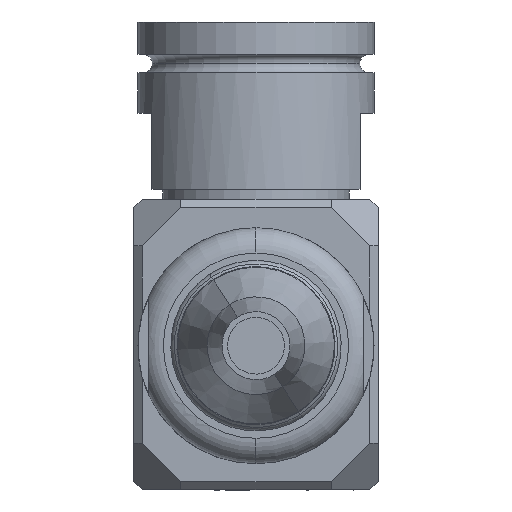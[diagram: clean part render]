
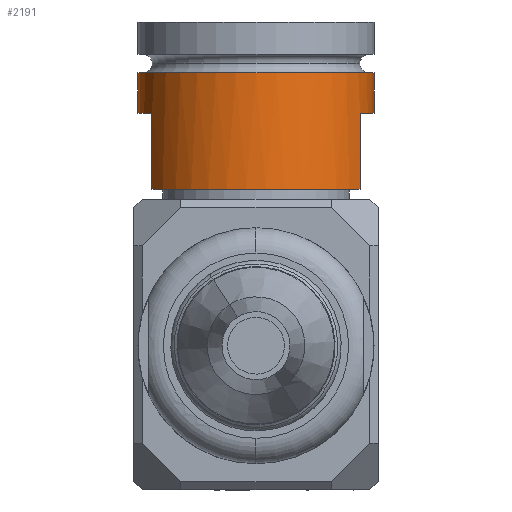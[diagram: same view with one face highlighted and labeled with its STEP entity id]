
A CAD part, front view. The second image highlights one B-rep face of the part: STEP entity #2191.
In plain terms, the highlighted cylindrical face has radius 14.77 mm (diameter 29.54 mm), a partial arc.
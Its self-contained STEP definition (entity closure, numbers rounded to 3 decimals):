
#228 = VECTOR ( 'NONE', #2886, 1000. ) ;
#287 = ORIENTED_EDGE ( 'NONE', *, *, #7144, .F. ) ;
#574 = CIRCLE ( 'NONE', #1686, 14.77 ) ;
#610 = AXIS2_PLACEMENT_3D ( 'NONE', #9788, #2903, #8858 ) ;
#701 = VERTEX_POINT ( 'NONE', #3369 ) ;
#855 = VERTEX_POINT ( 'NONE', #2719 ) ;
#1183 = ORIENTED_EDGE ( 'NONE', *, *, #4502, .T. ) ;
#1240 = ORIENTED_EDGE ( 'NONE', *, *, #4015, .F. ) ;
#1679 = VECTOR ( 'NONE', #2974, 1000. ) ;
#1686 = AXIS2_PLACEMENT_3D ( 'NONE', #3771, #9606, #5208 ) ;
#1749 = VERTEX_POINT ( 'NONE', #5133 ) ;
#2141 = ORIENTED_EDGE ( 'NONE', *, *, #9587, .T. ) ;
#2191 = ADVANCED_FACE ( 'NONE', ( #9208 ), #5255, .T. ) ;
#2228 = LINE ( 'NONE', #2919, #4032 ) ;
#2243 = ORIENTED_EDGE ( 'NONE', *, *, #8181, .F. ) ;
#2442 = VECTOR ( 'NONE', #8895, 1000. ) ;
#2467 = AXIS2_PLACEMENT_3D ( 'NONE', #2667, #9298, #2564 ) ;
#2494 = CARTESIAN_POINT ( 'NONE',  ( 13.017, -6.979, -2.972 ) ) ;
#2564 = DIRECTION ( 'NONE',  ( 1., 0., 0. ) ) ;
#2667 = CARTESIAN_POINT ( 'NONE',  ( 0., 0., -2.972 ) ) ;
#2719 = CARTESIAN_POINT ( 'NONE',  ( 14.77, 0., 2.108 ) ) ;
#2868 = ORIENTED_EDGE ( 'NONE', *, *, #9513, .F. ) ;
#2886 = DIRECTION ( 'NONE',  ( 0., 0., -1. ) ) ;
#2903 = DIRECTION ( 'NONE',  ( 0., 0., -1. ) ) ;
#2919 = CARTESIAN_POINT ( 'NONE',  ( 13.017, -6.979, -2.972 ) ) ;
#2957 = VERTEX_POINT ( 'NONE', #6554 ) ;
#2974 = DIRECTION ( 'NONE',  ( 0., 0., -1. ) ) ;
#3369 = CARTESIAN_POINT ( 'NONE',  ( 13.017, -6.979, -12.497 ) ) ;
#3719 = EDGE_CURVE ( 'NONE', #9844, #701, #2228, .T. ) ;
#3771 = CARTESIAN_POINT ( 'NONE',  ( 0., 0., -12.497 ) ) ;
#3789 = AXIS2_PLACEMENT_3D ( 'NONE', #7454, #8288, #4452 ) ;
#3805 = EDGE_LOOP ( 'NONE', ( #2141, #5223, #2868, #1183, #2243, #5988, #287, #1240 ) ) ;
#3854 = AXIS2_PLACEMENT_3D ( 'NONE', #8500, #4562, #4710 ) ;
#4015 = EDGE_CURVE ( 'NONE', #855, #1749, #4401, .T. ) ;
#4032 = VECTOR ( 'NONE', #7370, 1000. ) ;
#4401 = LINE ( 'NONE', #7444, #2442 ) ;
#4452 = DIRECTION ( 'NONE',  ( -1., 0., 0. ) ) ;
#4502 = EDGE_CURVE ( 'NONE', #9464, #6528, #6123, .T. ) ;
#4562 = DIRECTION ( 'NONE',  ( 0., 0., -1. ) ) ;
#4710 = DIRECTION ( 'NONE',  ( 1., 0., 0. ) ) ;
#5005 = CIRCLE ( 'NONE', #2467, 14.77 ) ;
#5133 = CARTESIAN_POINT ( 'NONE',  ( 14.77, 0., -2.972 ) ) ;
#5208 = DIRECTION ( 'NONE',  ( 1., 0., 0. ) ) ;
#5223 = ORIENTED_EDGE ( 'NONE', *, *, #5371, .T. ) ;
#5255 = CYLINDRICAL_SURFACE ( 'NONE', #3854, 14.77 ) ;
#5371 = EDGE_CURVE ( 'NONE', #8871, #2957, #8263, .T. ) ;
#5988 = ORIENTED_EDGE ( 'NONE', *, *, #3719, .F. ) ;
#6123 = LINE ( 'NONE', #7583, #228 ) ;
#6528 = VERTEX_POINT ( 'NONE', #9086 ) ;
#6554 = CARTESIAN_POINT ( 'NONE',  ( -14.77, 0., -2.972 ) ) ;
#7144 = EDGE_CURVE ( 'NONE', #1749, #9844, #5005, .T. ) ;
#7370 = DIRECTION ( 'NONE',  ( 0., 0., -1. ) ) ;
#7444 = CARTESIAN_POINT ( 'NONE',  ( 14.77, 0., 8.458 ) ) ;
#7454 = CARTESIAN_POINT ( 'NONE',  ( 0., 0., -2.972 ) ) ;
#7583 = CARTESIAN_POINT ( 'NONE',  ( -13.018, -6.979, -2.972 ) ) ;
#7753 = CARTESIAN_POINT ( 'NONE',  ( -14.77, 0., 2.108 ) ) ;
#7778 = CIRCLE ( 'NONE', #610, 14.77 ) ;
#8181 = EDGE_CURVE ( 'NONE', #701, #6528, #574, .T. ) ;
#8263 = LINE ( 'NONE', #8366, #1679 ) ;
#8288 = DIRECTION ( 'NONE',  ( 0., 0., -1. ) ) ;
#8366 = CARTESIAN_POINT ( 'NONE',  ( -14.77, 0., 8.458 ) ) ;
#8500 = CARTESIAN_POINT ( 'NONE',  ( 0., 0., 8.458 ) ) ;
#8858 = DIRECTION ( 'NONE',  ( 1., 0., 0. ) ) ;
#8859 = CARTESIAN_POINT ( 'NONE',  ( -13.018, -6.979, -2.972 ) ) ;
#8871 = VERTEX_POINT ( 'NONE', #7753 ) ;
#8895 = DIRECTION ( 'NONE',  ( 0., 0., -1. ) ) ;
#9086 = CARTESIAN_POINT ( 'NONE',  ( -13.018, -6.979, -12.497 ) ) ;
#9208 = FACE_OUTER_BOUND ( 'NONE', #3805, .T. ) ;
#9298 = DIRECTION ( 'NONE',  ( 0., 0., -1. ) ) ;
#9464 = VERTEX_POINT ( 'NONE', #8859 ) ;
#9513 = EDGE_CURVE ( 'NONE', #9464, #2957, #9531, .T. ) ;
#9531 = CIRCLE ( 'NONE', #3789, 14.77 ) ;
#9587 = EDGE_CURVE ( 'NONE', #855, #8871, #7778, .T. ) ;
#9606 = DIRECTION ( 'NONE',  ( 0., 0., -1. ) ) ;
#9788 = CARTESIAN_POINT ( 'NONE',  ( 0., 0., 2.108 ) ) ;
#9844 = VERTEX_POINT ( 'NONE', #2494 ) ;
